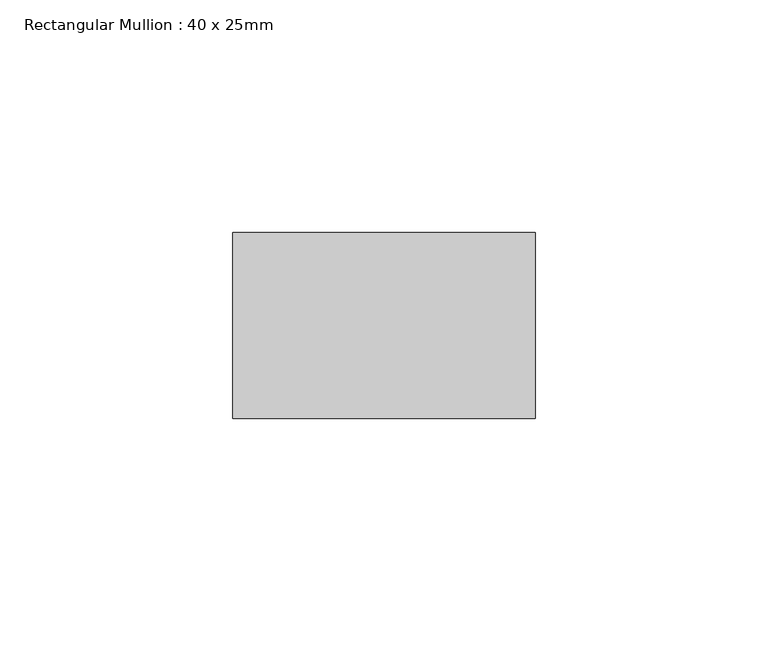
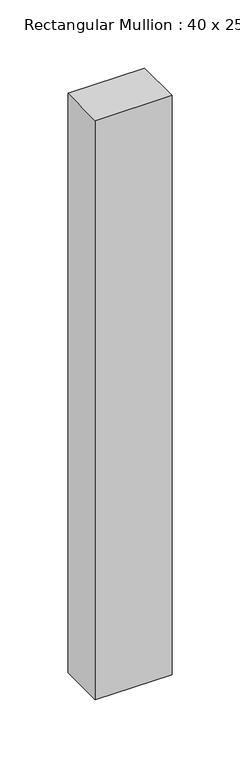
"""IFC4 building model written with IfcOpenShell, lengths in millimetres: member geometry, Rectangular Mullion : 40 x 25mm."""

from ifc_helpers import new_model, si_unit, frame, origin, place, context, project, spatial, polyline, outline, extrude, source, transform, mapped, element, save


def rectangular_mullion_40_x_25mm_46bbe94e(model_context):
    return source(origin(), model_context, "Body", "SweptSolid", [
        extrude(outline(polyline([(0.0, -20.0), (0.0, -60.0), (-65.0, -60.0), (-65.0, -20.0), (0.0, -20.0)])), frame((0.0, 0.0, -519.2347993), z_axis=(0.0, 0.0, 1.0), x_axis=(1.0, 0.0, 0.0)), (0.0, 0.0, 1.0), 519.2347993),
    ])


if __name__ == "__main__":
    model = new_model("IFC4")
    model_context = context("Model", 3, world=origin())
    ifc_project = project(units=[si_unit("LENGTHUNIT", "METRE", prefix="MILLI")], contexts=[model_context])
    site = spatial("IfcSite", under=ifc_project)
    building = spatial("IfcBuilding", under=site)
    placement = place(None, origin())
    rectangular_mullion_40_x_25mm_shape = rectangular_mullion_40_x_25mm_46bbe94e(model_context)
    element("IfcMember", 1, ObjectType="Rectangular Mullion : 40 x 25mm", at=placement, inside=building, context=model_context, shape_type="MappedRepresentation", body=[
        mapped(rectangular_mullion_40_x_25mm_shape, transform((0.0, 0.0, 0.0), x_axis=(1.0, 0.0, 0.0), y_axis=(0.0, 1.0, 0.0), z_axis=(0.0, 0.0, 1.0))),
    ])
    save(model, "model.ifc")
